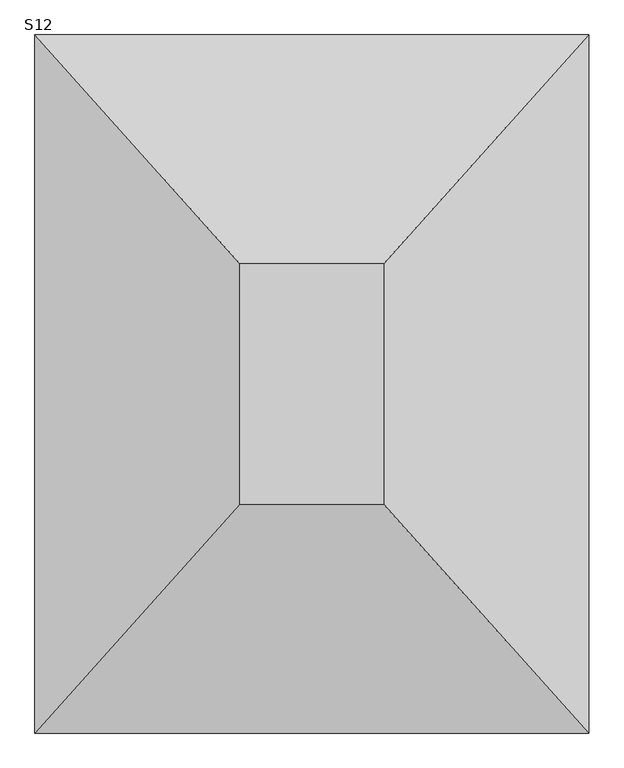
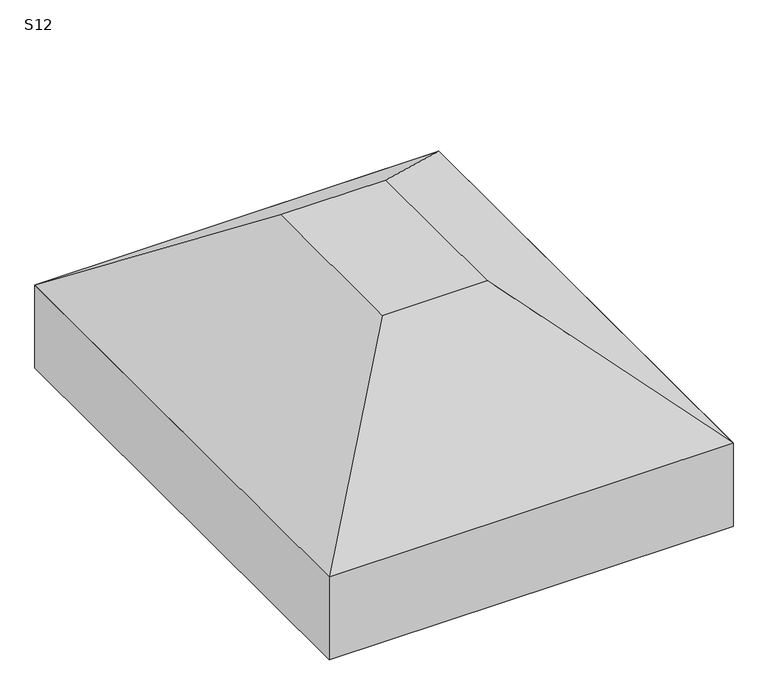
"""IFC4 building model written with IfcOpenShell, lengths in millimetres: fastener geometry, TQS - Sapata : S12."""

from ifc_helpers import new_model, si_unit, frame, origin, place, context, project, spatial, polyline, outline, extrude, faceted_brep, source, transform, mapped, element, save


def s12_20553a01(model_context):
    return source(origin(), model_context, "Body", "SolidModel", [
        faceted_brep([(-50.0, 50.0, 0.0), (-350.0, 50.0, 0.0), (-350.0, -450.0, 0.0), (-50.0, -450.0, 0.0), (375.0, 525.0, -350.0), (375.0, -925.0, -350.0), (-775.0, -925.0, -350.0), (-775.0, 525.0, -350.0)], [[[0, 1, 2, 3]], [[4, 5, 6, 7]], [[4, 7, 1, 0]], [[7, 6, 2, 1]], [[6, 5, 3, 2]], [[5, 4, 0, 3]]]),
        extrude(outline(polyline([(375.0, 525.0), (375.0, -925.0), (-775.0, -925.0), (-775.0, 525.0), (375.0, 525.0)])), frame((0.0, 0.0, -600.0), z_axis=(0.0, 0.0, 1.0), x_axis=(1.0, 0.0, 0.0)), (0.0, 0.0, 1.0), 250.0),
    ])


if __name__ == "__main__":
    model = new_model("IFC4")
    model_context = context("Model", 3, world=origin())
    ifc_project = project(units=[si_unit("LENGTHUNIT", "METRE", prefix="MILLI")], contexts=[model_context])
    site = spatial("IfcSite", under=ifc_project)
    building = spatial("IfcBuilding", under=site)
    placement = place(None, origin())
    s12_shape = s12_20553a01(model_context)
    element("IfcFastener", 1, ObjectType="TQS - Sapata : S12", at=placement, inside=building, context=model_context, shape_type="MappedRepresentation", body=[
        mapped(s12_shape, transform((0.0, 0.0, 0.0), x_axis=(1.0, 0.0, 0.0), y_axis=(0.0, 1.0, 0.0), z_axis=(0.0, 0.0, 1.0))),
    ])
    save(model, "model.ifc")
